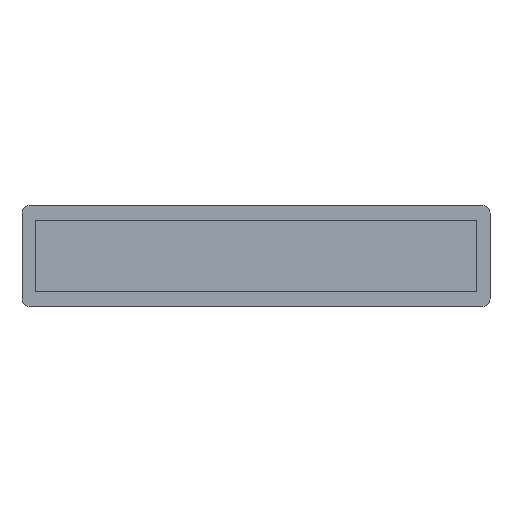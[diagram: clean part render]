
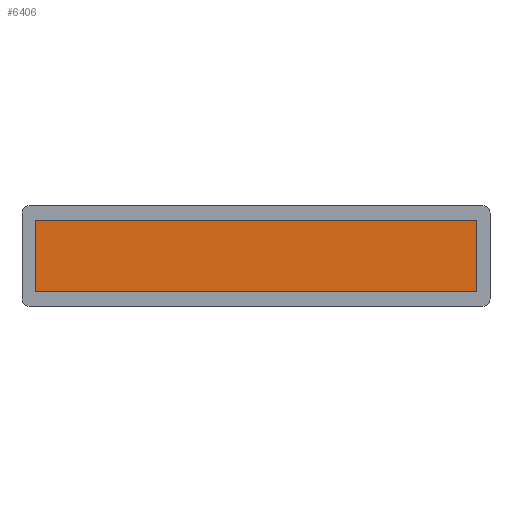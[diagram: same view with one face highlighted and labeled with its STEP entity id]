
A CAD part, front view. The second image highlights one B-rep face of the part: STEP entity #6406.
In plain terms, the highlighted planar face has unit normal (0, -1, 0).
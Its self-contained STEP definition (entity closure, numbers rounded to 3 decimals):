
#785 = EDGE_CURVE ( 'NONE', #10654, #7628, #8618, .T. ) ;
#980 = EDGE_CURVE ( 'NONE', #7026, #10654, #9076, .T. ) ;
#1178 = EDGE_CURVE ( 'NONE', #7700, #7026, #11153, .T. ) ;
#1434 = CARTESIAN_POINT ( 'NONE',  ( 925., -416.5, -150. ) ) ;
#1507 = DIRECTION ( 'NONE',  ( -1., 0., 0. ) ) ;
#1927 = CARTESIAN_POINT ( 'NONE',  ( 925., -416.5, 150. ) ) ;
#1986 = CARTESIAN_POINT ( 'NONE',  ( 925., -416.5, -150. ) ) ;
#2238 = CARTESIAN_POINT ( 'NONE',  ( -925., -416.5, 150. ) ) ;
#2290 = ORIENTED_EDGE ( 'NONE', *, *, #3923, .T. ) ;
#2768 = VECTOR ( 'NONE', #7861, 1000. ) ;
#2848 = PLANE ( 'NONE',  #10730 ) ;
#2905 = VECTOR ( 'NONE', #7663, 1000. ) ;
#3724 = CARTESIAN_POINT ( 'NONE',  ( 0., -416.5, 0. ) ) ;
#3731 = ORIENTED_EDGE ( 'NONE', *, *, #1178, .T. ) ;
#3838 = CARTESIAN_POINT ( 'NONE',  ( -925., -416.5, -150. ) ) ;
#3923 = EDGE_CURVE ( 'NONE', #7628, #7700, #4109, .T. ) ;
#4109 = LINE ( 'NONE', #1434, #2905 ) ;
#4570 = VECTOR ( 'NONE', #7335, 1000. ) ;
#4653 = DIRECTION ( 'NONE',  ( 0., -1., 0. ) ) ;
#4704 = FACE_OUTER_BOUND ( 'NONE', #7041, .T. ) ;
#5466 = DIRECTION ( 'NONE',  ( 0., 0., -1. ) ) ;
#6406 = ADVANCED_FACE ( 'NONE', ( #4704 ), #2848, .T. ) ;
#6949 = VECTOR ( 'NONE', #1507, 1000. ) ;
#7026 = VERTEX_POINT ( 'NONE', #2238 ) ;
#7041 = EDGE_LOOP ( 'NONE', ( #11305, #10445, #2290, #3731 ) ) ;
#7335 = DIRECTION ( 'NONE',  ( 0., 0., -1. ) ) ;
#7628 = VERTEX_POINT ( 'NONE', #1986 ) ;
#7663 = DIRECTION ( 'NONE',  ( 0., 0., 1. ) ) ;
#7700 = VERTEX_POINT ( 'NONE', #1927 ) ;
#7861 = DIRECTION ( 'NONE',  ( 1., 0., 0. ) ) ;
#8618 = LINE ( 'NONE', #9597, #2768 ) ;
#8934 = CARTESIAN_POINT ( 'NONE',  ( -925., -416.5, -150. ) ) ;
#9076 = LINE ( 'NONE', #3838, #4570 ) ;
#9580 = CARTESIAN_POINT ( 'NONE',  ( 925., -416.5, 150. ) ) ;
#9597 = CARTESIAN_POINT ( 'NONE',  ( 925., -416.5, -150. ) ) ;
#10445 = ORIENTED_EDGE ( 'NONE', *, *, #785, .T. ) ;
#10654 = VERTEX_POINT ( 'NONE', #8934 ) ;
#10730 = AXIS2_PLACEMENT_3D ( 'NONE', #3724, #4653, #5466 ) ;
#11153 = LINE ( 'NONE', #9580, #6949 ) ;
#11305 = ORIENTED_EDGE ( 'NONE', *, *, #980, .T. ) ;
